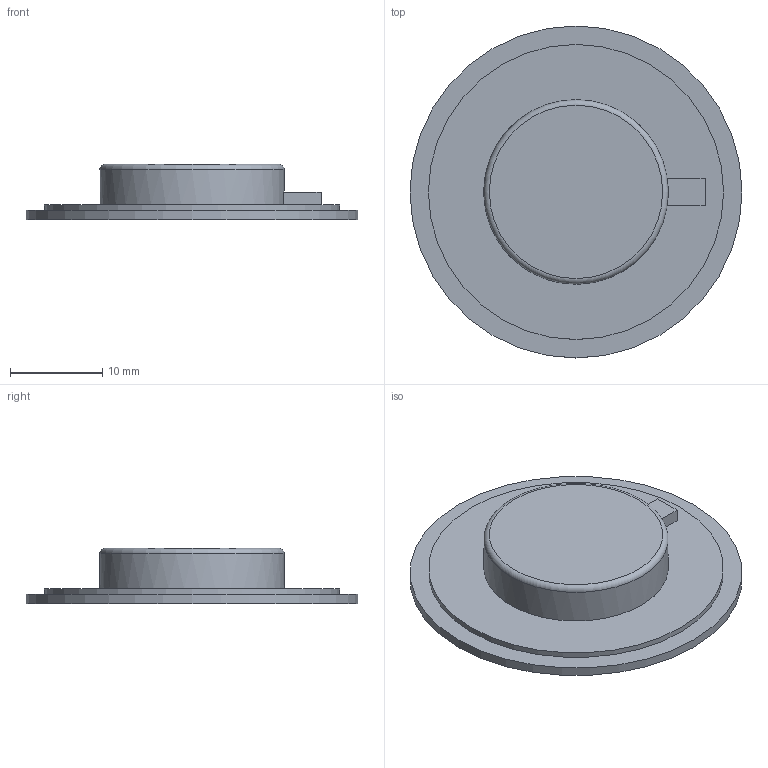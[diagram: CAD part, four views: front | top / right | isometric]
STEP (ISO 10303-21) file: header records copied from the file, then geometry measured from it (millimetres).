
FILE_DESCRIPTION(('Open CASCADE Model'),'2;1');
FILE_NAME('Open CASCADE Shape Model','2026-11-01T16:34:15',('Author'),( 'Open CASCADE'),'Open CASCADE STEP processor 8.0','build123d', 'Unknown');
FILE_SCHEMA(('AUTOMOTIVE_DESIGN { 1 0 10303 214 1 1 1 1 }'));
Length unit declared in the file: millimetre
Products named in the file (1): SOLID
Bounding box: 36 x 36 x 6 mm (x, y, z)
Volume: 2280.2 mm3; surface area: 3880.4 mm2
Topology: 1 solids, 2 shells, 17 faces, 29 edges, 19 vertices
Faces by surface type: plane 11, cylinder 5, torus 1
Full cylindrical faces by diameter (mm): 20 x1, 29 x1, 32 x2, 36 x1
Entity records: 782 total; most frequent: CARTESIAN_POINT 136, DIRECTION 125, ORIENTED_EDGE 58, PCURVE 58, DEFINITIONAL_REPRESENTATION 58, LINE 49, VECTOR 49, AXIS2_PLACEMENT_3D 32
